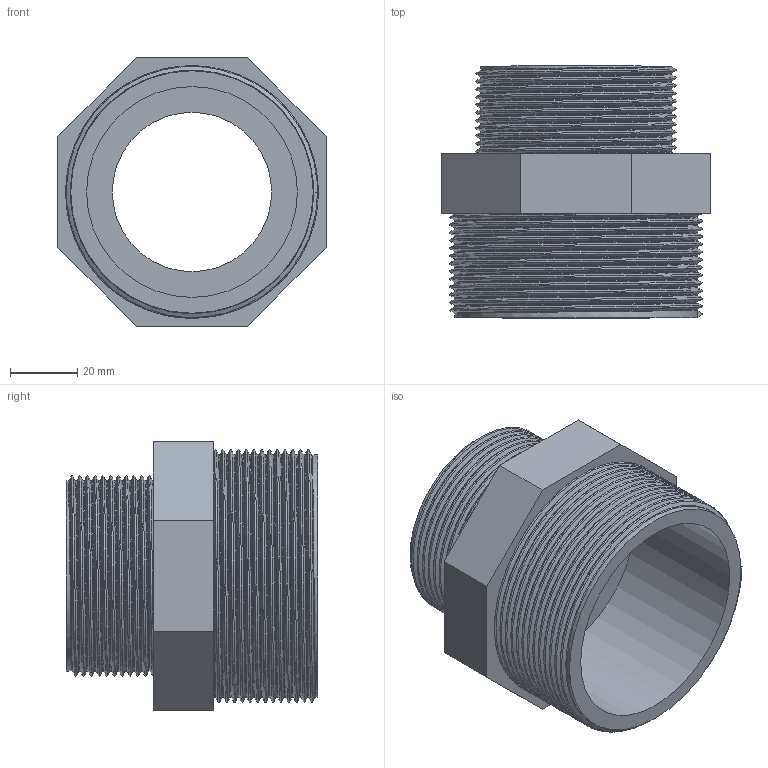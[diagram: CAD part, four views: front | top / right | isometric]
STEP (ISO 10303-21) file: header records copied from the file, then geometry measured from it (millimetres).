
FILE_DESCRIPTION(/* description */ ('PVC nipplo ridotto filettato BSP'),/* implementation_level */ '2;1');
FILE_NAME(/* name */ 'C:\Users\POLYPIPE\Desktop\DATASET INVENTOR\LIBRERIA EFFAST\RACCORDI 3DxWEB\RER\3D_RERNRE\3D_RERNRE075G.stp',/* time_stamp */ '2018-01-19T16:47:04+01:00',/* author */ ('POLYPIPE'),/* organization */ ('Polypipe Italia s.r.l.'),/* preprocessor_version */ 'ST-DEVELOPER v16.1',/* originating_system */ 'Autodesk Inventor 2016',/* authorisation */ '');
FILE_SCHEMA (('CONFIG_CONTROL_DESIGN'));
Length unit declared in the file: millimetre
Products named in the file (1): 3D_RERNRE
Bounding box: 80 x 75 x 80 mm (x, y, z)
Volume: 110562.1 mm3; surface area: 44705.9 mm2
Topology: 1 solids, 1 shells, 29 faces, 66 edges, 42 vertices
Faces by surface type: plane 15, bspline 10, cylinder 4
Full cylindrical faces by diameter (mm): 47.5 x1, 56.656 x1, 62.8 x1, 72.226 x1
Entity records: 10335 total; most frequent: CARTESIAN_POINT 9723, ORIENTED_EDGE 128, DIRECTION 94, EDGE_CURVE 64, VERTEX_POINT 42, EDGE_LOOP 36, AXIS2_PLACEMENT_3D 32, LINE 30
